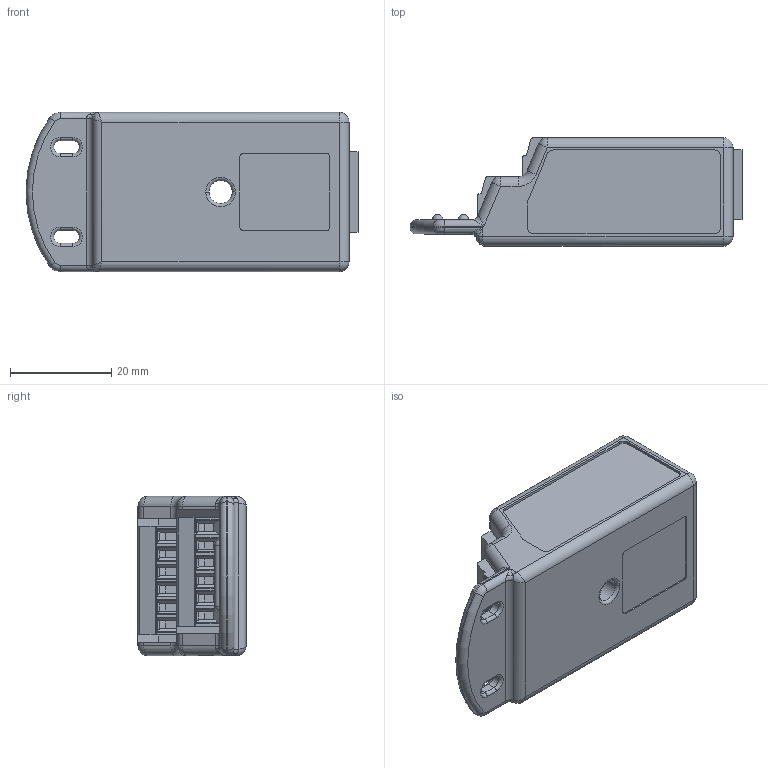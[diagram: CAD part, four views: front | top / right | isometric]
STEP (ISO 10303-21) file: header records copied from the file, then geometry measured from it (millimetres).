
FILE_DESCRIPTION((''),'2;1');
FILE_NAME('CU_NI-9949','2015-05-20T',('dkendric'),(''),'PRO/ENGINEER BY PARAMETRIC TECHNOLOGY CORPORATION, 2014000','PRO/ENGINEER BY PARAMETRIC TECHNOLOGY CORPORATION, 2014000','');
FILE_SCHEMA(('CONFIG_CONTROL_DESIGN'));
Length unit declared in the file: inch
Products named in the file (1): CU_NI-9949
Bounding box: 65.67 x 21.41 x 31.5 mm (x, y, z)
Volume: 29929.2 mm3; surface area: 8894.5 mm2
Topology: 1 solids, 1 shells, 522 faces, 1379 edges, 895 vertices
Faces by surface type: plane 286, cylinder 188, torus 22, bspline 14, sphere 12
Entity records: 16990 total; most frequent: CARTESIAN_POINT 3871, ORIENTED_EDGE 2750, DIRECTION 2711, EDGE_CURVE 1375, AXIS2_PLACEMENT_3D 912, VERTEX_POINT 895, VECTOR 887, LINE 887
